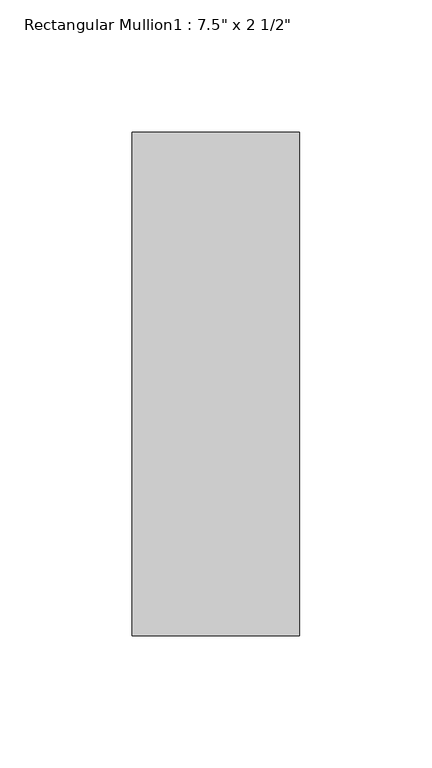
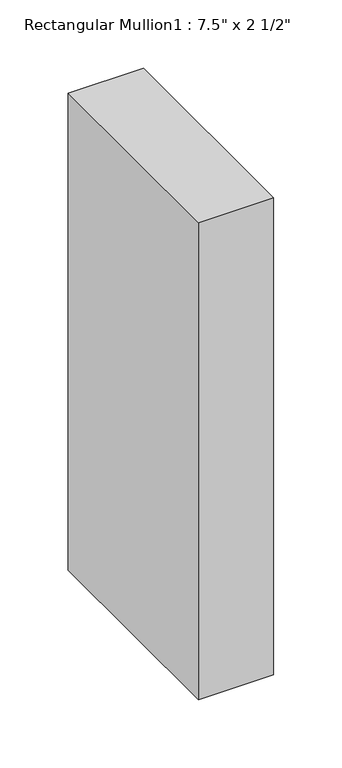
"""IFC4 building model written with IfcOpenShell, lengths in millimetres: member geometry."""

from ifc_helpers import new_model, si_unit, frame, origin, place, context, project, spatial, polyline, outline, extrude, source, transform, mapped, element, save


def member_cf7d1e8a(model_context):
    return source(origin(), model_context, "Body", "SweptSolid", [
        extrude(outline(polyline([(0.0, -165.1), (-63.5, -165.1), (-63.5, 25.4), (0.0, 25.4), (0.0, -165.1)])), frame((0.0, 0.0, -425.45), z_axis=(0.0, 0.0, 1.0), x_axis=(1.0, 0.0, 0.0)), (0.0, 0.0, 1.0), 425.45),
    ])


if __name__ == "__main__":
    model = new_model("IFC4")
    model_context = context("Model", 3, world=origin())
    ifc_project = project(units=[si_unit("LENGTHUNIT", "METRE", prefix="MILLI")], contexts=[model_context])
    site = spatial("IfcSite", under=ifc_project)
    building = spatial("IfcBuilding", under=site)
    placement = place(None, origin())
    member_shape = member_cf7d1e8a(model_context)
    element("IfcMember", 1, ObjectType="Rectangular Mullion1 : 7.5\" x 2 1/2\"", at=placement, inside=building, context=model_context, shape_type="MappedRepresentation", body=[
        mapped(member_shape, transform((0.0, 0.0, 0.0), x_axis=(1.0, 0.0, 0.0), y_axis=(0.0, 1.0, 0.0), z_axis=(0.0, 0.0, 1.0))),
    ])
    save(model, "model.ifc")
